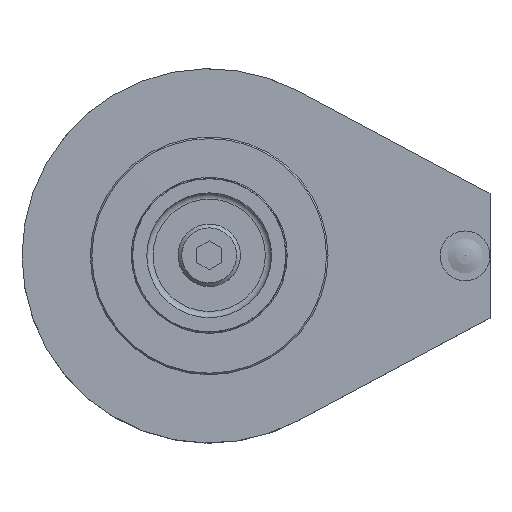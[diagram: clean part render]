
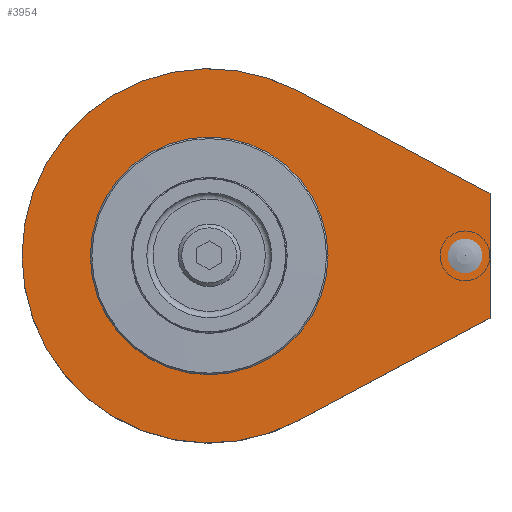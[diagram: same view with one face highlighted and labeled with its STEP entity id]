
A CAD part, top view. The second image highlights one B-rep face of the part: STEP entity #3954.
In plain terms, the highlighted planar face has unit normal (0, 0, 1).
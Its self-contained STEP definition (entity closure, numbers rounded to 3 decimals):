
#3363=PLANE('',#9607);
#3588=CIRCLE('',#9606,30.);
#3954=ADVANCED_FACE('AC_MATE1',(#4402),#3363,.F.);
#4402=FACE_OUTER_BOUND('',#4866,.T.);
#4866=EDGE_LOOP('',(#7186,#7187,#7188,#7189));
#5196=LINE('',#16028,#5498);
#5197=LINE('',#16031,#5499);
#5198=LINE('',#16033,#5500);
#5498=VECTOR('',#11081,1.);
#5499=VECTOR('',#11082,1.);
#5500=VECTOR('',#11083,1.);
#7186=ORIENTED_EDGE('',*,*,#8682,.F.);
#7187=ORIENTED_EDGE('',*,*,#8683,.F.);
#7188=ORIENTED_EDGE('',*,*,#8684,.T.);
#7189=ORIENTED_EDGE('',*,*,#8685,.T.);
#7819=VERTEX_POINT('',#16029);
#7820=VERTEX_POINT('',#16030);
#7821=VERTEX_POINT('',#16032);
#7822=VERTEX_POINT('',#16034);
#8682=EDGE_CURVE('',#7819,#7820,#5196,.T.);
#8683=EDGE_CURVE('',#7821,#7819,#5197,.T.);
#8684=EDGE_CURVE('',#7821,#7822,#5198,.T.);
#8685=EDGE_CURVE('',#7822,#7820,#3588,.T.);
#9606=AXIS2_PLACEMENT_3D('',#16035,#11084,#11085);
#9607=AXIS2_PLACEMENT_3D('',#16036,#11086,#11087);
#11081=DIRECTION('',(0.471,-0.882,0.));
#11082=DIRECTION('',(1.,0.,0.));
#11083=DIRECTION('',(-0.471,-0.882,0.));
#11084=DIRECTION('',(0.,0.,1.));
#11085=DIRECTION('',(1.,0.,0.));
#11086=DIRECTION('',(0.,0.,-1.));
#11087=DIRECTION('',(-1.,0.,0.));
#16028=CARTESIAN_POINT('',(10.,0.,4.763));
#16029=CARTESIAN_POINT('',(10.,0.,4.763));
#16030=CARTESIAN_POINT('',(26.471,-30.882,4.763));
#16031=CARTESIAN_POINT('',(0.,0.,4.763));
#16032=CARTESIAN_POINT('',(-10.,0.,4.763));
#16033=CARTESIAN_POINT('',(-10.,0.,4.763));
#16034=CARTESIAN_POINT('',(-26.471,-30.882,4.763));
#16035=CARTESIAN_POINT('',(0.,-45.,4.763));
#16036=CARTESIAN_POINT('',(0.,-45.,4.763));
